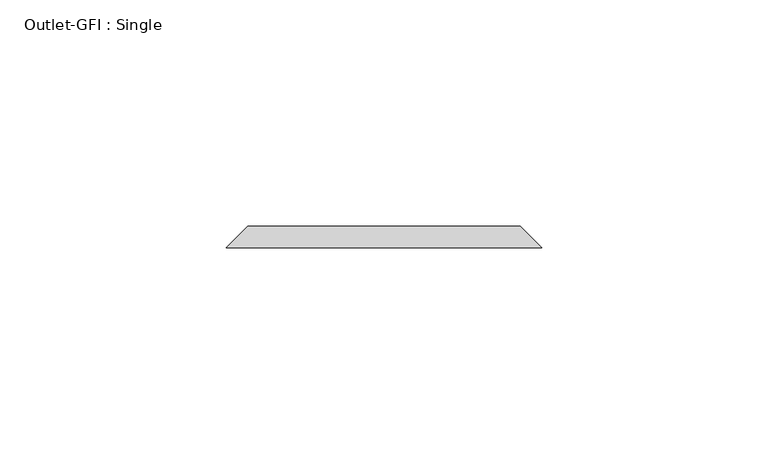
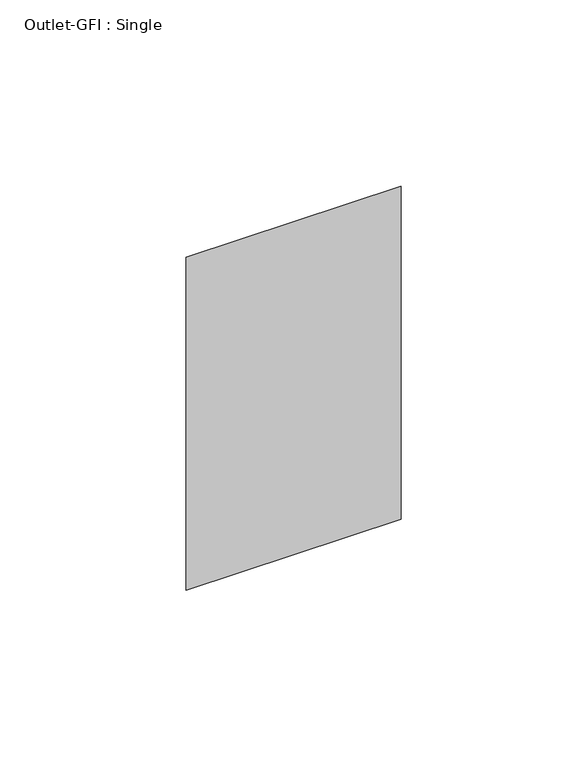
"""IFC4 building model written with IfcOpenShell, lengths in millimetres: proxy geometry, Outlet-GFI : Single."""

from ifc_helpers import new_model, si_unit, origin, place, context, project, spatial, faceted_brep, source, transform, mapped, element, save


def outlet_gfi_single_5668d69b(model_context):
    return source(origin(), model_context, "Body", "Brep", [
        faceted_brep([(-30.1625, 42.8625, 1271.5875), (30.1625, 42.8625, 1271.5875), (30.1625, 42.8625, 1166.8125), (-30.1625, 42.8625, 1166.8125), (-34.925, 38.1, 1276.35), (-34.925, 38.1, 1162.05), (34.925, 38.1, 1162.05), (34.925, 38.1, 1276.35)], [[[0, 1, 2, 3]], [[4, 5, 6, 7]], [[4, 7, 1, 0]], [[7, 6, 2, 1]], [[6, 5, 3, 2]], [[5, 4, 0, 3]]]),
    ])


if __name__ == "__main__":
    model = new_model("IFC4")
    model_context = context("Model", 3, world=origin())
    ifc_project = project(units=[si_unit("LENGTHUNIT", "METRE", prefix="MILLI")], contexts=[model_context])
    site = spatial("IfcSite", under=ifc_project)
    building = spatial("IfcBuilding", under=site)
    placement = place(None, origin())
    outlet_gfi_single_shape = outlet_gfi_single_5668d69b(model_context)
    element("IfcBuildingElementProxy", 1, Name="Outlet-GFI : Single", ObjectType="Outlet-GFI : Single", at=placement, inside=building, context=model_context, shape_type="MappedRepresentation", body=[
        mapped(outlet_gfi_single_shape, transform((0.0, 0.0, 0.0), x_axis=(1.0, 0.0, 0.0), y_axis=(0.0, 1.0, 0.0), z_axis=(0.0, 0.0, 1.0))),
    ])
    save(model, "model.ifc")
